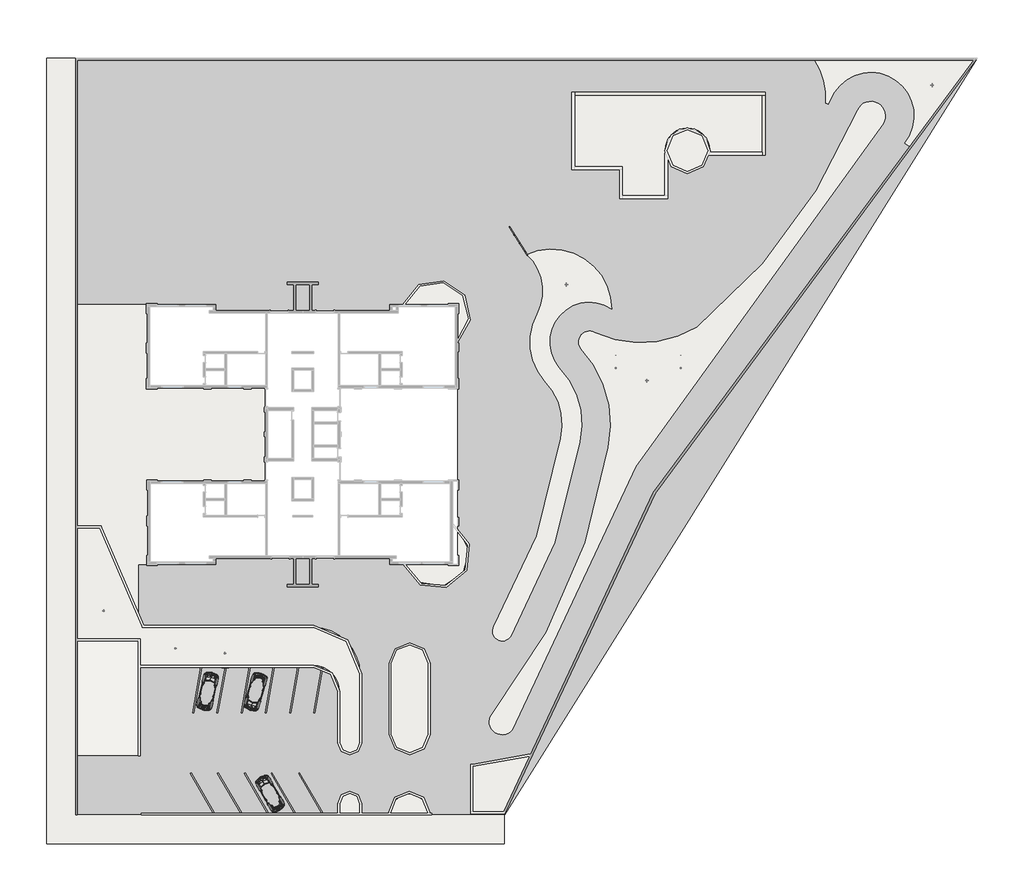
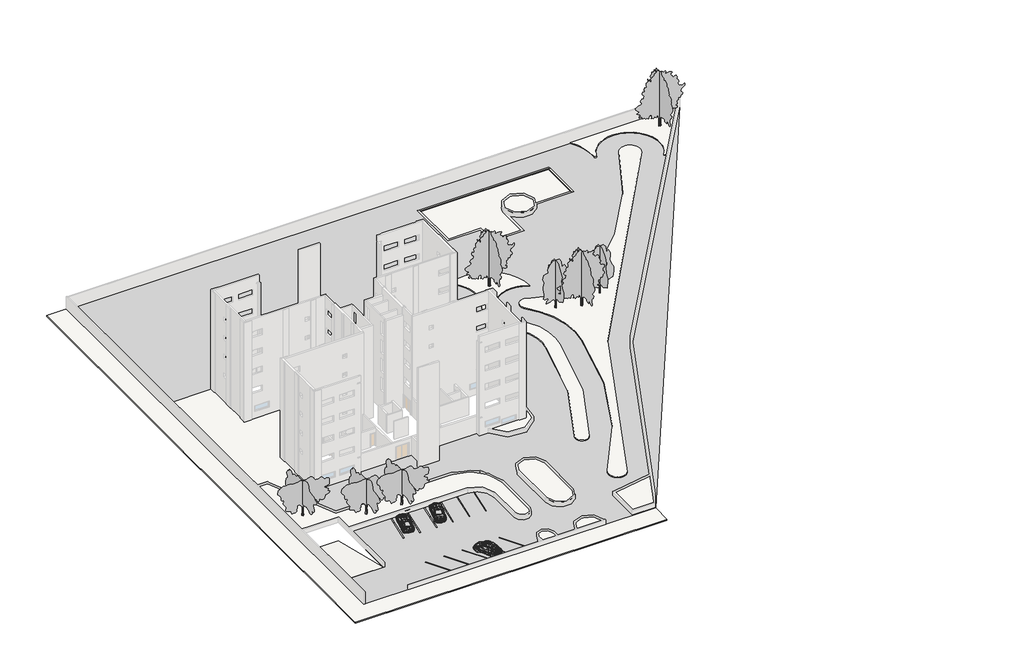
# One storey, part 6 of 6: 16 slabs, 15 proxies, 8 geographic elements, 2 walls, 1 railing.
"""IFC4 building model written with IfcOpenShell, lengths in millimetres."""

from ifc_helpers import new_model, si_unit, point, frame, frame_2d, origin, origin_with_axes, place, context, project, spatial, polyline, circle_curve, ellipse_curve, trimmed, segment, composite_curve, outline, extrude, faceted_brep, triangles, transform, mapped, element, save
from ifc_brep_helpers import plane_surface, revolved_surface, advanced_brep
from components import entourage_b6d71803, m_vaga_de_estacionamento_4800_x_2400_mm_60_degraus_5b8ad055, m_vaga_de_estacionamento_4800_x_2400_mm_80_degraus_9b4b83f7, geographic_element_40acba24, geographic_element_31fc5fb8, bordo_vermelho_9_metros_3358a221

model = new_model("IFC4")

# Units and contexts
model_context = context("Model", 3, world=origin())
ifc_project = project(units=[si_unit("LENGTHUNIT", "METRE", prefix="MILLI")], contexts=[model_context])

# Site, building, storey
site = spatial("IfcSite", under=ifc_project)
building = spatial("IfcBuilding", under=site)
storey = spatial("IfcBuildingStorey", under=building, Name="Térreo", Elevation=0.0)

# Proxies
placement = place(None, origin())
element("IfcBuildingElementProxy", 1, Name="Building Element Proxy", at=placement, inside=storey, context=model_context, shape_type="Tessellation", body=[
    triangles([(-24517.9150818, 39694.5445313, 0.0), (-24517.9150818, -38595.8743835, 0.0), (19838.1914246, -38570.873584, 0.0), (68737.7578125, 39694.5445313, 0.0), (26807.4171936, 36194.5465393, 0.0), (46807.4499023, 36194.5465393, 0.0), (46807.4499023, 29660.4128174, 0.0), (40792.2635742, 29660.4128174, 0.0), (40840.1443726, 30095.6443909, 0.0), (40796.226123, 30531.2945435, 0.0), (40662.4389404, 30948.2132813, 0.0), (40444.6615356, 31328.0714905, 0.0), (40152.4654175, 31654.1748413, 0.0), (39798.7009644, 31912.1846741, 0.0), (39398.9160645, 32090.7644714, 0.0), (38970.6817383, 32182.0588989, 0.0), (38532.8224182, 32182.0588989, 0.0), (38104.588092, 32090.7644714, 0.0), (37704.8008667, 31912.1846741, 0.0), (37351.0364136, 31654.1748413, 0.0), (37058.8426208, 31328.0714905, 0.0), (36841.0652161, 30948.2132813, 0.0), (36707.275708, 30531.2945435, 0.0), (36663.3574585, 30095.6443909, 0.0), (36711.2405823, 29660.4128174, 0.0), (36711.2405823, 25194.545874, 0.0), (31733.2653625, 25194.545874, 0.0), (31733.2653625, 28194.5464783, 0.0), (26807.4171936, 28194.5464783, 0.0), (-24317.9133362, -32494.7398132, 0.0), (-24317.9133362, 14233.6614258, 0.0), (-10026.2263824, 14233.6614258, 0.0), (-10026.2263824, 13603.6615082, 0.0), (7973.7731735, 13603.6615082, 0.0), (7973.7731735, 14233.6614258, 0.0), (9379.9286224, 14233.6614258, 0.0), (15013.773111, 14233.6614258, 0.0), (15013.773111, 10002.0453003, 0.0), (15013.773111, -12686.3384308, 0.0), (7973.7731735, -12686.3384308, 0.0), (7973.7731735, -12056.3385132, 0.0), (-10026.2263824, -12056.3385132, 0.0), (-10026.2263824, -12686.3384308, 0.0), (-17066.2269012, -12686.3384308, 0.0), (-18017.9141602, -12686.3384308, 0.0), (-18017.9141602, -32494.7398132, 0.0), (35406.1830322, -5314.8244263, 0.0)], [[2, 30, 31], [30, 2, 46], [46, 44, 45], [44, 46, 43], [2, 3, 46], [40, 3, 39], [40, 43, 46], [47, 38, 39], [42, 43, 41], [41, 43, 40], [40, 46, 3], [33, 34, 32], [32, 34, 35], [31, 32, 1], [31, 1, 2], [1, 32, 35], [1, 35, 5], [37, 38, 27], [36, 37, 29], [27, 29, 37], [28, 29, 27], [29, 5, 36], [27, 38, 47], [36, 5, 35], [1, 5, 4], [39, 3, 47], [26, 27, 47], [26, 47, 7], [24, 25, 23], [23, 25, 22], [26, 8, 25], [7, 8, 26], [14, 8, 9], [21, 25, 8], [10, 13, 9], [10, 11, 12], [25, 21, 22], [47, 4, 7], [19, 8, 18], [8, 19, 20], [8, 16, 17], [8, 17, 18], [21, 8, 20], [9, 13, 14], [14, 15, 8], [6, 4, 5], [7, 4, 6], [15, 16, 8], [12, 13, 10], [47, 3, 4]], closed=False),
])
entourage_shape = entourage_b6d71803(model_context)
element("IfcBuildingElementProxy", 2, Name="RPC Fusca : RPC Fusca", ObjectType="RPC Fusca : RPC Fusca", at=placement, inside=storey, context=model_context, shape_type="MappedRepresentation", body=[
    mapped(entourage_shape, transform((-11135.3987263, -27004.6754797, 0.0), x_axis=(0.9743700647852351, -0.22495105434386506, 0.0), y_axis=(0.22495105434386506, 0.9743700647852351, 0.0), z_axis=(0.0, 0.0, 1.0))),
])
element("IfcBuildingElementProxy", 3, Name="RPC Fusca : RPC Fusca", ObjectType="RPC Fusca : RPC Fusca", at=placement, inside=storey, context=model_context, shape_type="MappedRepresentation", body=[
    mapped(entourage_shape, transform((-5570.3362936, -24664.0640745, 0.0), x_axis=(-0.9612616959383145, 0.27563735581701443, 0.0), y_axis=(-0.27563735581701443, -0.9612616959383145, 0.0), z_axis=(0.0, 0.0, 1.0))),
])
element("IfcBuildingElementProxy", 4, Name="RPC Fusca : RPC Fusca", ObjectType="RPC Fusca : RPC Fusca", at=placement, inside=storey, context=model_context, shape_type="MappedRepresentation", body=[
    mapped(entourage_shape, transform((-3792.4903068, -37456.3218548, 0.0), x_axis=(0.8660254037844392, 0.4999999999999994, 0.0), y_axis=(-0.4999999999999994, 0.8660254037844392, 0.0), z_axis=(0.0, 0.0, 1.0))),
])
m_vaga_de_estacionamento_4800_x_2400_mm_60_degraus_shape = m_vaga_de_estacionamento_4800_x_2400_mm_60_degraus_5b8ad055(model_context)
element("IfcBuildingElementProxy", 5, Name="M_Vaga de estacionamento : 4800 x 2400 mm - 60 degraus", ObjectType="M_Vaga de estacionamento : 4800 x 2400 mm - 60 degraus", at=placement, inside=storey, context=model_context, shape_type="MappedRepresentation", body=[
    mapped(m_vaga_de_estacionamento_4800_x_2400_mm_60_degraus_shape, transform((982.0858738, -38395.8732274, 0.0), x_axis=(-1.0000000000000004, 0.0, 0.0), y_axis=(0.0, -1.0000000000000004, 0.0), z_axis=(0.0, 0.0, 1.0))),
])
element("IfcBuildingElementProxy", 6, Name="M_Vaga de estacionamento : 4800 x 2400 mm - 60 degraus", ObjectType="M_Vaga de estacionamento : 4800 x 2400 mm - 60 degraus", at=placement, inside=storey, context=model_context, shape_type="MappedRepresentation", body=[
    mapped(m_vaga_de_estacionamento_4800_x_2400_mm_60_degraus_shape, transform((-4629.7104353, -38395.8732274, 0.0), x_axis=(-1.0, 0.0, 0.0), y_axis=(0.0, -1.0, 0.0), z_axis=(0.0, 0.0, 1.0))),
])
element("IfcBuildingElementProxy", 7, Name="M_Vaga de estacionamento : 4800 x 2400 mm - 60 degraus", ObjectType="M_Vaga de estacionamento : 4800 x 2400 mm - 60 degraus", at=placement, inside=storey, context=model_context, shape_type="MappedRepresentation", body=[
    mapped(m_vaga_de_estacionamento_4800_x_2400_mm_60_degraus_shape, transform((-10217.9141262, -38395.8732274, 0.0), x_axis=(-1.0, 0.0, 0.0), y_axis=(0.0, -1.0, 0.0), z_axis=(0.0, 0.0, 1.0))),
])
element("IfcBuildingElementProxy", 8, Name="M_Vaga de estacionamento : 4800 x 2400 mm - 60 degraus", ObjectType="M_Vaga de estacionamento : 4800 x 2400 mm - 60 degraus", at=placement, inside=storey, context=model_context, shape_type="MappedRepresentation", body=[
    mapped(m_vaga_de_estacionamento_4800_x_2400_mm_60_degraus_shape, transform((-1858.7104353, -38395.8732274, 0.0), x_axis=(-1.0, 0.0, 0.0), y_axis=(0.0, -1.0, 0.0), z_axis=(0.0, 0.0, 1.0))),
])
element("IfcBuildingElementProxy", 9, Name="M_Vaga de estacionamento : 4800 x 2400 mm - 60 degraus", ObjectType="M_Vaga de estacionamento : 4800 x 2400 mm - 60 degraus", at=placement, inside=storey, context=model_context, shape_type="MappedRepresentation", body=[
    mapped(m_vaga_de_estacionamento_4800_x_2400_mm_60_degraus_shape, transform((-7400.7104353, -38395.8732274, 0.0), x_axis=(-1.0, 0.0, 0.0), y_axis=(0.0, -1.0, 0.0), z_axis=(0.0, 0.0, 1.0))),
])
m_vaga_de_estacionamento_4800_x_2400_mm_80_degraus_shape = m_vaga_de_estacionamento_4800_x_2400_mm_80_degraus_9b4b83f7(model_context)
element("IfcBuildingElementProxy", 10, Name="M_Vaga de estacionamento : 4800 x 2400 mm - 80 degraus", ObjectType="M_Vaga de estacionamento : 4800 x 2400 mm - 80 degraus", at=placement, inside=storey, context=model_context, shape_type="MappedRepresentation", body=[
    mapped(m_vaga_de_estacionamento_4800_x_2400_mm_80_degraus_shape, transform((-11499.5516131, -23306.6566108, 0.0), x_axis=(-1.0000000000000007, 0.0, 0.0), y_axis=(0.0, -1.0000000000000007, 0.0), z_axis=(0.0, 0.0, 1.0))),
])
element("IfcBuildingElementProxy", 11, Name="M_Vaga de estacionamento : 4800 x 2400 mm - 80 degraus", ObjectType="M_Vaga de estacionamento : 4800 x 2400 mm - 80 degraus", at=placement, inside=storey, context=model_context, shape_type="MappedRepresentation", body=[
    mapped(m_vaga_de_estacionamento_4800_x_2400_mm_80_degraus_shape, transform((-9010.9679413, -23306.6566108, 0.0), x_axis=(-1.0, 0.0, 0.0), y_axis=(0.0, -1.0, 0.0), z_axis=(0.0, 0.0, 1.0))),
])
element("IfcBuildingElementProxy", 12, Name="M_Vaga de estacionamento : 4800 x 2400 mm - 80 degraus", ObjectType="M_Vaga de estacionamento : 4800 x 2400 mm - 80 degraus", at=placement, inside=storey, context=model_context, shape_type="MappedRepresentation", body=[
    mapped(m_vaga_de_estacionamento_4800_x_2400_mm_80_degraus_shape, transform((-6502.3974192, -23306.6566108, 0.0), x_axis=(-1.0, 0.0, 0.0), y_axis=(0.0, -1.0, 0.0), z_axis=(0.0, 0.0, 1.0))),
])
element("IfcBuildingElementProxy", 13, Name="M_Vaga de estacionamento : 4800 x 2400 mm - 80 degraus", ObjectType="M_Vaga de estacionamento : 4800 x 2400 mm - 80 degraus", at=placement, inside=storey, context=model_context, shape_type="MappedRepresentation", body=[
    mapped(m_vaga_de_estacionamento_4800_x_2400_mm_80_degraus_shape, transform((-4005.6295436, -23306.6566108, 0.0), x_axis=(-1.0, 0.0, 0.0), y_axis=(0.0, -1.0, 0.0), z_axis=(0.0, 0.0, 1.0))),
])
element("IfcBuildingElementProxy", 14, Name="M_Vaga de estacionamento : 4800 x 2400 mm - 80 degraus", ObjectType="M_Vaga de estacionamento : 4800 x 2400 mm - 80 degraus", at=placement, inside=storey, context=model_context, shape_type="MappedRepresentation", body=[
    mapped(m_vaga_de_estacionamento_4800_x_2400_mm_80_degraus_shape, transform((-1508.861668, -23306.6566108, 0.0), x_axis=(-1.0, 0.0, 0.0), y_axis=(0.0, -1.0, 0.0), z_axis=(0.0, 0.0, 1.0))),
])
element("IfcBuildingElementProxy", 15, Name="M_Vaga de estacionamento : 4800 x 2400 mm - 80 degraus", ObjectType="M_Vaga de estacionamento : 4800 x 2400 mm - 80 degraus", at=placement, inside=storey, context=model_context, shape_type="MappedRepresentation", body=[
    mapped(m_vaga_de_estacionamento_4800_x_2400_mm_80_degraus_shape, transform((987.9062076, -23306.6566108, 0.0), x_axis=(-1.0, 0.0, 0.0), y_axis=(0.0, -1.0, 0.0), z_axis=(0.0, 0.0, 1.0))),
])

# Geographic elements
geographic_element_shape = geographic_element_40acba24(model_context)
element("IfcGeographicElement", 16, ObjectType="M_RPC Árvore - Caduca : Freixo vermelho - 7,6 metros", at=placement, inside=storey, context=model_context, shape_type="MappedRepresentation", body=[
    mapped(geographic_element_shape, transform((31333.539337, 7633.6614625, 150.0), x_axis=(1.0, 0.0, 0.0), y_axis=(0.0, 1.0, 0.0), z_axis=(0.0, 0.0, 1.0))),
])
element("IfcGeographicElement", 17, ObjectType="M_RPC Árvore - Caduca : Freixo vermelho - 7,6 metros", at=placement, inside=storey, context=model_context, shape_type="MappedRepresentation", body=[
    mapped(geographic_element_shape, transform((38040.7770278, 7633.6614625, 150.0), x_axis=(1.0, 0.0, 0.0), y_axis=(0.0, 1.0, 0.0), z_axis=(0.0, 0.0, 1.0))),
])
geographic_element_2_shape = geographic_element_31fc5fb8(model_context)
element("IfcGeographicElement", 18, ObjectType="M_RPC Árvore - Caduca : Macieira - 6,0 metros", at=placement, inside=storey, context=model_context, shape_type="MappedRepresentation", body=[
    mapped(geographic_element_2_shape, transform((-21617.9141262, -17481.3385375, 500.0), x_axis=(1.0, 0.0, 0.0), y_axis=(0.0, 1.0, 0.0), z_axis=(0.0, 0.0, 1.0))),
])
element("IfcGeographicElement", 19, ObjectType="M_RPC Árvore - Caduca : Macieira - 6,0 metros", at=placement, inside=storey, context=model_context, shape_type="MappedRepresentation", body=[
    mapped(geographic_element_2_shape, transform((-14191.2265742, -21375.5927534, 500.0), x_axis=(1.0, 0.0, 0.0), y_axis=(0.0, 1.0, 0.0), z_axis=(0.0, 0.0, 1.0))),
])
element("IfcGeographicElement", 20, ObjectType="M_RPC Árvore - Caduca : Macieira - 6,0 metros", at=placement, inside=storey, context=model_context, shape_type="MappedRepresentation", body=[
    mapped(geographic_element_2_shape, transform((-9076.2265742, -21875.5927534, 500.0), x_axis=(1.0, 0.0, 0.0), y_axis=(0.0, 1.0, 0.0), z_axis=(0.0, 0.0, 1.0))),
])
bordo_vermelho_9_metros_shape = bordo_vermelho_9_metros_3358a221(model_context)
element("IfcGeographicElement", 21, ObjectType="M_RPC Árvore - Caduca : Bordo vermelho - 9 metros", at=placement, inside=storey, context=model_context, shape_type="MappedRepresentation", body=[
    mapped(bordo_vermelho_9_metros_shape, transform((64040.7770278, 36894.5466212, 150.0), x_axis=(1.0, 0.0, 0.0), y_axis=(0.0, 1.0, 0.0), z_axis=(0.0, 0.0, 1.0))),
])
element("IfcGeographicElement", 22, ObjectType="M_RPC Árvore - Caduca : Bordo vermelho - 9 metros", at=placement, inside=storey, context=model_context, shape_type="MappedRepresentation", body=[
    mapped(bordo_vermelho_9_metros_shape, transform((34533.539337, 6333.6614625, 150.0), x_axis=(1.0, 0.0, 0.0), y_axis=(0.0, 1.0, 0.0), z_axis=(0.0, 0.0, 1.0))),
])
element("IfcGeographicElement", 23, ObjectType="M_RPC Árvore - Caduca : Bordo vermelho - 9 metros", at=placement, inside=storey, context=model_context, shape_type="MappedRepresentation", body=[
    mapped(bordo_vermelho_9_metros_shape, transform((26233.539337, 16278.6614625, 150.0), x_axis=(1.0, 0.0, 0.0), y_axis=(0.0, 1.0, 0.0), z_axis=(0.0, 0.0, 1.0))),
])

# Railing
element("IfcRailing", 24, ObjectType="900 mm Tubulação", at=placement, inside=storey, context=model_context, shape_type="SolidModel", body=[
    advanced_brep(
    [(22228.4636839, 19317.4463258, 880.0), (20356.4662354, 22262.0650202, 880.0), (20321.1795764, 22243.2275125, 880.0), (22196.4327243, 19293.4876608, 880.0)],
    [
        (0, 1, circle_curve(frame((40645.9733625, 33093.4601965, 880.0), z_axis=(0.0, 0.0, -1.0), x_axis=(-0.8821664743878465, -0.4709376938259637, 0.0)), 22999.6352346)),
        (1, 2, circle_curve(frame((20338.8229059, 22252.6462664, 880.0), z_axis=(0.47093769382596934, -0.8821664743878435, 0.0), x_axis=(0.8821664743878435, 0.47093769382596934, 0.0)), 20.0)),
        (2, 3, circle_curve(frame((40645.9733625, 33093.4601965, 880.0), z_axis=(0.0, 0.0, 1.0), x_axis=(-0.8821664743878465, -0.4709376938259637, 0.0)), 23039.6352346)),
        (3, 0, circle_curve(frame((22212.4482041, 19305.4669933, 880.0), z_axis=(-0.5989666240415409, 0.8007739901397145, 0.0), x_axis=(0.8007739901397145, 0.5989666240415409, 0.0)), 20.0)),
        (2, 1, circle_curve(frame((20338.8229059, 22252.6462664, 880.0), z_axis=(0.47093769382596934, -0.8821664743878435, 0.0), x_axis=(0.8821664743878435, 0.47093769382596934, 0.0)), 20.0)),
        (0, 3, circle_curve(frame((22212.4482041, 19305.4669933, 880.0), z_axis=(-0.598966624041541, 0.8007739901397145, 0.0), x_axis=(0.8007739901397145, 0.598966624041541, 0.0)), 20.0)),
    ],
    [
        revolved_surface(trimmed(ellipse_curve(frame((20338.8229059, 22252.6462664, 880.0), z_axis=(-0.4709376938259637, 0.8821664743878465, 0.0), x_axis=(0.8821664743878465, 0.4709376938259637, 0.0)), 20.0, 20.0), [point((20321.1795764, 22243.2275125, 880.0))], [point((20356.4662354, 22262.0650202, 880.0))], True, "CARTESIAN"), (40645.9733625, 33093.4601965, 900.0), (0.0, 0.0, 1.0)),
        revolved_surface(trimmed(ellipse_curve(frame((20338.8229059, 22252.6462664, 880.0), z_axis=(-0.4709376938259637, 0.8821664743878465, 0.0), x_axis=(0.8821664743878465, 0.4709376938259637, 0.0)), 20.0, 20.0), [point((20356.4662354, 22262.0650202, 880.0))], [point((20321.1795764, 22243.2275125, 880.0))], True, "CARTESIAN"), (40645.9733625, 33093.4601965, 900.0), (0.0, 0.0, 1.0)),
        plane_surface(frame((20338.8229059, 22252.6462664, 900.0), z_axis=(-0.4709376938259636, 0.8821664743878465, 0.0), x_axis=(0.8821664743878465, 0.4709376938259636, 0.0))),
        plane_surface(frame((22212.4482041, 19305.4669933, 900.0), z_axis=(0.5989666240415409, -0.8007739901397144, 0.0), x_axis=(0.8007739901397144, 0.5989666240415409, 0.0))),
    ],
    [
        (0, [[1, 2, 3, 4]]),
        (1, [[-3, 5, -1, 6]]),
        (2, [[-2, -5]]),
        (3, [[-6, -4]]),
    ],
),
    advanced_brep(
    [(22200.4365943, 19296.482494, 685.0), (20325.5904088, 22245.582201, 685.0), (20352.055403, 22259.7103318, 685.0), (22224.459814, 19314.4514927, 685.0)],
    [
        (0, 1, circle_curve(frame((40645.9733625, 33093.4601965, 685.0), z_axis=(0.0, 0.0, -1.0), x_axis=(-0.8821664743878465, -0.4709376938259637, 0.0)), 23034.6352346)),
        (1, 2, circle_curve(frame((20338.8229059, 22252.6462664, 685.0), z_axis=(0.4709376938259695, -0.8821664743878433, 0.0), x_axis=(0.8821664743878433, 0.4709376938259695, 0.0)), 15.0)),
        (2, 3, circle_curve(frame((40645.9733625, 33093.4601965, 685.0), z_axis=(0.0, 0.0, 1.0), x_axis=(-0.8821664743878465, -0.4709376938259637, 0.0)), 23004.6352346)),
        (3, 0, circle_curve(frame((22212.4482041, 19305.4669933, 685.0), z_axis=(-0.5989666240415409, 0.8007739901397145, 0.0), x_axis=(0.8007739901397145, 0.5989666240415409, 0.0)), 15.0)),
        (2, 1, circle_curve(frame((20338.8229059, 22252.6462664, 685.0), z_axis=(0.4709376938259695, -0.8821664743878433, 0.0), x_axis=(0.8821664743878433, 0.4709376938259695, 0.0)), 15.0)),
        (0, 3, circle_curve(frame((22212.4482041, 19305.4669933, 685.0), z_axis=(-0.5989666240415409, 0.8007739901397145, 0.0), x_axis=(0.8007739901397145, 0.5989666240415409, 0.0)), 15.0)),
    ],
    [
        revolved_surface(trimmed(ellipse_curve(frame((20338.8229059, 22252.6462664, 685.0), z_axis=(-0.4709376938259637, 0.8821664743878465, 0.0), x_axis=(0.8821664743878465, 0.4709376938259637, 0.0)), 15.0, 15.0), [point((20352.055403, 22259.7103318, 685.0))], [point((20325.5904088, 22245.582201, 685.0))], True, "CARTESIAN"), (40645.9733625, 33093.4601965, 700.0), (0.0, 0.0, 1.0)),
        revolved_surface(trimmed(ellipse_curve(frame((20338.8229059, 22252.6462664, 685.0), z_axis=(-0.4709376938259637, 0.8821664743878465, 0.0), x_axis=(0.8821664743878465, 0.4709376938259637, 0.0)), 15.0, 15.0), [point((20325.5904088, 22245.582201, 685.0))], [point((20352.055403, 22259.7103318, 685.0))], True, "CARTESIAN"), (40645.9733625, 33093.4601965, 700.0), (0.0, 0.0, 1.0)),
        plane_surface(frame((20338.8229059, 22252.6462664, 700.0), z_axis=(-0.4709376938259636, 0.8821664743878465, 0.0), x_axis=(0.8821664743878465, 0.4709376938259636, 0.0))),
        plane_surface(frame((22212.4482041, 19305.4669933, 700.0), z_axis=(0.5989666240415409, -0.8007739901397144, 0.0), x_axis=(0.8007739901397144, 0.5989666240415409, 0.0))),
    ],
    [
        (0, [[1, 2, 3, 4]]),
        (1, [[-3, 5, -1, 6]]),
        (2, [[-5, -2]]),
        (3, [[-4, -6]]),
    ],
),
    advanced_brep(
    [(22200.4365943, 19296.482494, 485.0), (20325.5904088, 22245.582201, 485.0), (20352.055403, 22259.7103318, 485.0), (22224.459814, 19314.4514927, 485.0)],
    [
        (0, 1, circle_curve(frame((40645.9733625, 33093.4601965, 485.0), z_axis=(0.0, 0.0, -1.0), x_axis=(-0.8821664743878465, -0.4709376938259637, 0.0)), 23034.6352346)),
        (1, 2, circle_curve(frame((20338.8229059, 22252.6462664, 485.0), z_axis=(0.4709376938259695, -0.8821664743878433, 0.0), x_axis=(0.8821664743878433, 0.4709376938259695, 0.0)), 15.0)),
        (2, 3, circle_curve(frame((40645.9733625, 33093.4601965, 485.0), z_axis=(0.0, 0.0, 1.0), x_axis=(-0.8821664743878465, -0.4709376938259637, 0.0)), 23004.6352346)),
        (3, 0, circle_curve(frame((22212.4482041, 19305.4669933, 485.0), z_axis=(-0.5989666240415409, 0.8007739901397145, 0.0), x_axis=(0.8007739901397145, 0.5989666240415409, 0.0)), 15.0)),
        (2, 1, circle_curve(frame((20338.8229059, 22252.6462664, 485.0), z_axis=(0.4709376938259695, -0.8821664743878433, 0.0), x_axis=(0.8821664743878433, 0.4709376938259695, 0.0)), 15.0)),
        (0, 3, circle_curve(frame((22212.4482041, 19305.4669933, 485.0), z_axis=(-0.5989666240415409, 0.8007739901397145, 0.0), x_axis=(0.8007739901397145, 0.5989666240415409, 0.0)), 15.0)),
    ],
    [
        revolved_surface(trimmed(ellipse_curve(frame((20338.8229059, 22252.6462664, 485.0), z_axis=(-0.4709376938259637, 0.8821664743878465, 0.0), x_axis=(0.8821664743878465, 0.4709376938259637, 0.0)), 15.0, 15.0), [point((20352.055403, 22259.7103318, 485.0))], [point((20325.5904088, 22245.582201, 485.0))], True, "CARTESIAN"), (40645.9733625, 33093.4601965, 500.0), (0.0, 0.0, 1.0)),
        revolved_surface(trimmed(ellipse_curve(frame((20338.8229059, 22252.6462664, 485.0), z_axis=(-0.4709376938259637, 0.8821664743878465, 0.0), x_axis=(0.8821664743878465, 0.4709376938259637, 0.0)), 15.0, 15.0), [point((20325.5904088, 22245.582201, 485.0))], [point((20352.055403, 22259.7103318, 485.0))], True, "CARTESIAN"), (40645.9733625, 33093.4601965, 500.0), (0.0, 0.0, 1.0)),
        plane_surface(frame((20338.8229059, 22252.6462664, 500.0), z_axis=(-0.4709376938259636, 0.8821664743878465, 0.0), x_axis=(0.8821664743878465, 0.4709376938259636, 0.0))),
        plane_surface(frame((22212.4482041, 19305.4669933, 500.0), z_axis=(0.5989666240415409, -0.8007739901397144, 0.0), x_axis=(0.8007739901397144, 0.5989666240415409, 0.0))),
    ],
    [
        (0, [[1, 2, 3, 4]]),
        (1, [[-3, 5, -1, 6]]),
        (2, [[-5, -2]]),
        (3, [[-4, -6]]),
    ],
),
    advanced_brep(
    [(22200.4365943, 19296.482494, 285.0), (20325.5904088, 22245.582201, 285.0), (20352.055403, 22259.7103318, 285.0), (22224.459814, 19314.4514927, 285.0)],
    [
        (0, 1, circle_curve(frame((40645.9733625, 33093.4601965, 285.0), z_axis=(0.0, 0.0, -1.0), x_axis=(-0.8821664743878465, -0.4709376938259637, 0.0)), 23034.6352346)),
        (1, 2, circle_curve(frame((20338.8229059, 22252.6462664, 285.0), z_axis=(0.4709376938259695, -0.8821664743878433, 0.0), x_axis=(0.8821664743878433, 0.4709376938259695, 0.0)), 15.0)),
        (2, 3, circle_curve(frame((40645.9733625, 33093.4601965, 285.0), z_axis=(0.0, 0.0, 1.0), x_axis=(-0.8821664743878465, -0.4709376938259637, 0.0)), 23004.6352346)),
        (3, 0, circle_curve(frame((22212.4482041, 19305.4669933, 285.0), z_axis=(-0.5989666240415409, 0.8007739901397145, 0.0), x_axis=(0.8007739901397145, 0.5989666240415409, 0.0)), 15.0)),
        (2, 1, circle_curve(frame((20338.8229059, 22252.6462664, 285.0), z_axis=(0.4709376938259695, -0.8821664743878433, 0.0), x_axis=(0.8821664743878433, 0.4709376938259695, 0.0)), 15.0)),
        (0, 3, circle_curve(frame((22212.4482041, 19305.4669933, 285.0), z_axis=(-0.5989666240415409, 0.8007739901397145, 0.0), x_axis=(0.8007739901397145, 0.5989666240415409, 0.0)), 15.0)),
    ],
    [
        revolved_surface(trimmed(ellipse_curve(frame((20338.8229059, 22252.6462664, 285.0), z_axis=(-0.4709376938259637, 0.8821664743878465, 0.0), x_axis=(0.8821664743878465, 0.4709376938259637, 0.0)), 15.0, 15.0), [point((20352.055403, 22259.7103318, 285.0))], [point((20325.5904088, 22245.582201, 285.0))], True, "CARTESIAN"), (40645.9733625, 33093.4601965, 300.0), (0.0, 0.0, 1.0)),
        revolved_surface(trimmed(ellipse_curve(frame((20338.8229059, 22252.6462664, 285.0), z_axis=(-0.4709376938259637, 0.8821664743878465, 0.0), x_axis=(0.8821664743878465, 0.4709376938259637, 0.0)), 15.0, 15.0), [point((20325.5904088, 22245.582201, 285.0))], [point((20352.055403, 22259.7103318, 285.0))], True, "CARTESIAN"), (40645.9733625, 33093.4601965, 300.0), (0.0, 0.0, 1.0)),
        plane_surface(frame((20338.8229059, 22252.6462664, 300.0), z_axis=(-0.4709376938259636, 0.8821664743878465, 0.0), x_axis=(0.8821664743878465, 0.4709376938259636, 0.0))),
        plane_surface(frame((22212.4482041, 19305.4669933, 300.0), z_axis=(0.5989666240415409, -0.8007739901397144, 0.0), x_axis=(0.8007739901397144, 0.5989666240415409, 0.0))),
    ],
    [
        (0, [[1, 2, 3, 4]]),
        (1, [[-3, 5, -1, 6]]),
        (2, [[-5, -2]]),
        (3, [[-4, -6]]),
    ],
),
    advanced_brep(
    [(22200.4365943, 19296.482494, 85.0), (20325.5904088, 22245.582201, 85.0), (20352.055403, 22259.7103318, 85.0), (22224.459814, 19314.4514927, 85.0)],
    [
        (0, 1, circle_curve(frame((40645.9733625, 33093.4601965, 85.0), z_axis=(0.0, 0.0, -1.0), x_axis=(-0.8821664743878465, -0.4709376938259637, 0.0)), 23034.6352346)),
        (1, 2, circle_curve(frame((20338.8229059, 22252.6462664, 85.0), z_axis=(0.4709376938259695, -0.8821664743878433, 0.0), x_axis=(0.8821664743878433, 0.4709376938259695, 0.0)), 15.0)),
        (2, 3, circle_curve(frame((40645.9733625, 33093.4601965, 85.0), z_axis=(0.0, 0.0, 1.0), x_axis=(-0.8821664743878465, -0.4709376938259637, 0.0)), 23004.6352346)),
        (3, 0, circle_curve(frame((22212.4482041, 19305.4669933, 85.0), z_axis=(-0.5989666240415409, 0.8007739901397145, 0.0), x_axis=(0.8007739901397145, 0.5989666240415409, 0.0)), 15.0)),
        (2, 1, circle_curve(frame((20338.8229059, 22252.6462664, 85.0), z_axis=(0.4709376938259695, -0.8821664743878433, 0.0), x_axis=(0.8821664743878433, 0.4709376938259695, 0.0)), 15.0)),
        (0, 3, circle_curve(frame((22212.4482041, 19305.4669933, 85.0), z_axis=(-0.5989666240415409, 0.8007739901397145, 0.0), x_axis=(0.8007739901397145, 0.5989666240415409, 0.0)), 15.0)),
    ],
    [
        revolved_surface(trimmed(ellipse_curve(frame((20338.8229059, 22252.6462664, 85.0), z_axis=(-0.4709376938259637, 0.8821664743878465, 0.0), x_axis=(0.8821664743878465, 0.4709376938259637, 0.0)), 15.0, 15.0), [point((20352.055403, 22259.7103318, 85.0))], [point((20325.5904088, 22245.582201, 85.0))], True, "CARTESIAN"), (40645.9733625, 33093.4601965, 100.0), (0.0, 0.0, 1.0)),
        revolved_surface(trimmed(ellipse_curve(frame((20338.8229059, 22252.6462664, 85.0), z_axis=(-0.4709376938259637, 0.8821664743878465, 0.0), x_axis=(0.8821664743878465, 0.4709376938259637, 0.0)), 15.0, 15.0), [point((20325.5904088, 22245.582201, 85.0))], [point((20352.055403, 22259.7103318, 85.0))], True, "CARTESIAN"), (40645.9733625, 33093.4601965, 100.0), (0.0, 0.0, 1.0)),
        plane_surface(frame((20338.8229059, 22252.6462664, 100.0), z_axis=(-0.4709376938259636, 0.8821664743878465, 0.0), x_axis=(0.8821664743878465, 0.4709376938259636, 0.0))),
        plane_surface(frame((22212.4482041, 19305.4669933, 100.0), z_axis=(0.5989666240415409, -0.8007739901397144, 0.0), x_axis=(0.8007739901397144, 0.5989666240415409, 0.0))),
    ],
    [
        (0, [[1, 2, 3, 4]]),
        (1, [[-3, 5, -1, 6]]),
        (2, [[-5, -2]]),
        (3, [[-4, -6]]),
    ],
),
    extrude(outline(composite_curve([segment(trimmed(circle_curve(frame_2d((21919.8467536, 19705.5631039)), 12.5), [point((21909.6781918, 19698.2932792))], [point((21930.0153153, 19712.8329286))], False, "CARTESIAN"), True, "CONTINUOUS"), segment(trimmed(circle_curve(frame_2d((21919.8467536, 19705.5631039)), 12.5), [point((21930.0153153, 19712.8329286))], [point((21909.6781918, 19698.2932792))], False, "CARTESIAN"), True, "CONTINUOUS")], self_intersect=False)), origin_with_axes(), (0.0, 0.0, 1.0), 900.0),
    extrude(outline(composite_curve([segment(trimmed(circle_curve(frame_2d((21356.1102716, 20531.4226122)), 12.5), [point((21345.6355926, 20524.6012413))], [point((21366.5849505, 20538.2439831))], False, "CARTESIAN"), True, "CONTINUOUS"), segment(trimmed(circle_curve(frame_2d((21356.1102716, 20531.4226122)), 12.5), [point((21366.5849505, 20538.2439831))], [point((21345.6355926, 20524.6012413))], False, "CARTESIAN"), True, "CONTINUOUS")], self_intersect=False)), origin_with_axes(), (0.0, 0.0, 1.0), 900.0),
    extrude(outline(composite_curve([segment(trimmed(circle_curve(frame_2d((20828.770654, 21380.9846619)), 12.5), [point((20818.0096219, 21374.6246157))], [point((20839.5316862, 21387.3447082))], False, "CARTESIAN"), True, "CONTINUOUS"), segment(trimmed(circle_curve(frame_2d((20828.770654, 21380.9846619)), 12.5), [point((20839.5316862, 21387.3447082))], [point((20818.0096219, 21374.6246157))], False, "CARTESIAN"), True, "CONTINUOUS")], self_intersect=False)), origin_with_axes(), (0.0, 0.0, 1.0), 900.0),
    extrude(outline(composite_curve([segment(trimmed(circle_curve(frame_2d((22204.9638394, 19315.4787005)), 12.5), [point((22194.9501004, 19307.9970542))], [point((22214.9775784, 19322.9603468))], False, "CARTESIAN"), True, "CONTINUOUS"), segment(trimmed(circle_curve(frame_2d((22204.9638394, 19315.4787005)), 12.5), [point((22214.9775784, 19322.9603468))], [point((22194.9501004, 19307.9970542))], False, "CARTESIAN"), True, "CONTINUOUS")], self_intersect=False)), origin_with_axes(), (0.0, 0.0, 1.0), 900.0),
    extrude(outline(composite_curve([segment(trimmed(circle_curve(frame_2d((20344.7126207, 22241.6207843)), 12.5), [point((20333.688738, 22235.7280761))], [point((20355.7365034, 22247.5134924))], False, "CARTESIAN"), True, "CONTINUOUS"), segment(trimmed(circle_curve(frame_2d((20344.7126207, 22241.6207843)), 12.5), [point((20355.7365034, 22247.5134924))], [point((20333.688738, 22235.7280761))], False, "CARTESIAN"), True, "CONTINUOUS")], self_intersect=False)), origin_with_axes(), (0.0, 0.0, 1.0), 900.0),
])

# Slabs
element("IfcSlab", 25, ObjectType="chao", at=placement, inside=storey, context=model_context, shape_type="SweptSolid", body=[
    extrude(outline(polyline([(-17116.2265742, 14233.6614625), (-17116.2265742, 5583.6614625), (-4926.2265742, 5583.6614625), (-4926.2265742, -4036.3385375), (-17066.2265742, -4036.3385375), (-17066.2265742, -12686.3385375), (-18026.2265742, -12686.3385375), (-18026.2265742, -17786.3385375), (-21910.8166391, -8680.2987821), (-24317.9141262, -8680.2987821), (-24317.9141262, 14233.6614625), (-17116.2265742, 14233.6614625)])), frame((0.0, 0.0, -150.0), z_axis=(0.0, 0.0, 1.0), x_axis=(1.0, 0.0, 0.0)), (0.0, 0.0, 1.0), 150.0),
])
element("IfcSlab", 26, ObjectType="Genérico 150 mm", at=placement, inside=storey, context=model_context, shape_type="SweptSolid", body=[
    extrude(outline(polyline([(-20575.5927534, -3154.6783537), (-32494.7400989, -154.6783537), (-32494.7400989, 0.0), (-20575.5927534, -3000.0), (-20575.5927534, -3154.6783537)])), frame((-24317.9141262, 0.0, 0.0), z_axis=(1.0, 0.0, 0.0), x_axis=(0.0, 1.0, 0.0)), (0.0, 0.0, 1.0), 6300.0),
])
element("IfcSlab", 27, ObjectType="Genérico 150 mm", at=placement, inside=storey, context=model_context, shape_type="SweptSolid", body=[
    extrude(outline(polyline([(-24517.9141262, -38595.8732274), (19826.4884846, -38595.8732274), (19826.4884846, -41595.8732274), (-27517.9141262, -41595.8732274), (-27517.9141262, 39694.5466212), (-24517.9141262, 39694.5466212), (-24517.9141262, -38595.8732274)])), frame((0.0, 0.0, -150.0), z_axis=(0.0, 0.0, 1.0), x_axis=(1.0, 0.0, 0.0)), (0.0, 0.0, 1.0), 150.0),
])
element("IfcSlab", 28, ObjectType="Pad 1", at=placement, inside=storey, context=model_context, shape_type="SweptSolid", body=[
    extrude(outline(composite_curve([segment(polyline([(26807.4178737, 36194.5466212), (46807.4513898, 36194.5466212), (46807.4513898, 29660.413094), (40792.2628524, 29660.413094)]), True, "CONTINUOUS"), segment(trimmed(circle_curve(frame_2d((38751.7515487, 30105.1512773)), 2088.4152921), [point((40792.2628524, 29660.413094))], [point((36711.240245, 29660.413094))], True, "CARTESIAN"), True, "CONTINUOUS"), segment(polyline([(36711.240245, 29660.413094), (36711.240245, 25194.5466212), (31733.2652295, 25194.5466212), (31733.2652295, 28194.5466212), (26807.4178737, 28194.5466212), (26807.4178737, 36194.5466212)]), True, "CONTINUOUS")], self_intersect=False)), frame((0.0, 0.0, -1504.8), z_axis=(0.0, 0.0, 1.0), x_axis=(1.0, 0.0, 0.0)), (0.0, 0.0, 1.0), 304.8),
])
element("IfcSlab", 29, ObjectType="agua", at=placement, inside=storey, context=model_context, shape_type="SweptSolid", body=[
    extrude(outline(composite_curve([segment(polyline([(46507.4513898, 35894.5466212), (46507.4513898, 29960.413094), (41093.2245807, 29960.413094)]), True, "CONTINUOUS"), segment(trimmed(circle_curve(frame_2d((38742.5293591, 30136.3195215)), 2357.2677183), [point((41093.2245807, 29960.413094))], [point((41099.7970775, 30136.3195215))], True, "CARTESIAN"), True, "CONTINUOUS"), segment(trimmed(circle_curve(frame_2d((38742.5293591, 30136.3195215)), 2357.2677183), [point((41099.7970775, 30136.3195215))], [point((36385.2616408, 30136.3195215))], True, "CARTESIAN"), True, "CONTINUOUS"), segment(trimmed(circle_curve(frame_2d((38742.5293591, 30136.3195215)), 2357.2677183), [point((36385.2616408, 30136.3195215))], [point((36411.240245, 29787.3178567))], True, "CARTESIAN"), True, "CONTINUOUS"), segment(polyline([(36411.240245, 29787.3178567), (36411.240245, 25494.5466212), (32033.2652295, 25494.5466212), (32033.2652295, 28494.5466212), (27107.4178737, 28494.5466212), (27107.4178737, 35894.5466212), (46507.4513898, 35894.5466212)]), True, "CONTINUOUS")], self_intersect=False)), frame((0.0, 0.0, -150.0), z_axis=(0.0, 0.0, 1.0), x_axis=(1.0, 0.0, 0.0)), (0.0, 0.0, 1.0), 50.0),
])
element("IfcSlab", 30, ObjectType="grama", at=placement, inside=storey, context=model_context, shape_type="SweptSolid", body=[
    extrude(outline(composite_curve([segment(trimmed(circle_curve(frame_2d((57722.1369731, 33732.608471)), 1499.3616855), [point((56347.9908021, 34332.4482536))], [point((58979.1924152, 32915.3587665))], False, "CARTESIAN"), True, "CONTINUOUS"), segment(polyline([(58979.1924152, 32915.3587665), (33402.5773318, -2518.915571), (20638.8331863, -29784.5829299)]), True, "CONTINUOUS"), segment(trimmed(circle_curve(frame_2d((19592.5181151, -28946.9702659)), 1340.2873584), [point((20638.8331863, -29784.5829299))], [point((18546.2030439, -28109.3576019))], False, "CARTESIAN"), True, "CONTINUOUS"), segment(trimmed(circle_curve(frame_2d((-26443.5713707, 7906.5670808)), 57630.0844406), [point((18546.2030439, -28109.3576019))], [point((30560.3685046, -565.5915175))], True, "CARTESIAN"), True, "CONTINUOUS"), segment(trimmed(circle_curve(frame_2d((19435.7670637, 1853.3098458)), 11384.5439533), [point((30560.3685046, -565.5915175))], [point((27703.9352287, 9679.2434144))], True, "CARTESIAN"), True, "CONTINUOUS"), segment(trimmed(circle_curve(frame_2d((28601.9786324, 10341.2787461)), 1115.6938359), [point((27703.9352287, 9679.2434144))], [point((29170.4416565, 11301.2904782))], False, "CARTESIAN"), True, "CONTINUOUS"), segment(trimmed(circle_curve(frame_2d((33918.1844399, 21648.5983159)), 11384.5439533), [point((29170.4416565, 11301.2904782))], [point((39789.4605135, 11894.8319514))], True, "CARTESIAN"), True, "CONTINUOUS"), segment(trimmed(circle_curve(frame_2d((3559.7519662, 55960.4086301)), 57047.0580263), [point((39789.4605135, 11894.8319514))], [point((56347.9908021, 34332.4482536))], True, "CARTESIAN"), True, "CONTINUOUS")], self_intersect=False)), origin_with_axes(), (0.0, 0.0, 1.0), 150.0),
])
element("IfcSlab", 31, ObjectType="grama", at=placement, inside=storey, context=model_context, shape_type="SweptSolid", body=[
    extrude(outline(composite_curve([segment(polyline([(22436.7787869, -32548.0890887), (19752.8557151, -38281.4344816), (16568.5988374, -38281.4344816), (16568.5988374, -33543.0270687)]), True, "CONTINUOUS"), segment(trimmed(circle_curve(frame_2d((16954.7200078, -18017.5465347)), 15530.2812392), [point((16568.5988374, -33543.0270687))], [point((22436.7787869, -32548.0890887))], True, "CARTESIAN"), True, "CONTINUOUS")], self_intersect=False)), frame((0.0, 0.0, 350.0), z_axis=(0.0, 0.0, 1.0), x_axis=(1.0, 0.0, 0.0)), (0.0, 0.0, 1.0), 150.0),
])
element("IfcSlab", 32, ObjectType="grama", at=placement, inside=storey, context=model_context, shape_type="SweptSolid", body=[
    extrude(outline(composite_curve([segment(polyline([(11960.22669, -22906.6566108), (11960.22669, -30232.738286)]), True, "CONTINUOUS"), segment(trimmed(circle_curve(frame_2d((10028.5015499, -30232.738286)), 1931.7251401), [point((11960.22669, -30232.738286))], [point((8096.7764098, -30232.738286))], False, "CARTESIAN"), True, "CONTINUOUS"), segment(polyline([(8096.7764098, -30232.738286), (8096.7764098, -22906.6566108)]), True, "CONTINUOUS"), segment(trimmed(circle_curve(frame_2d((10028.5015499, -22906.6566108)), 1931.7251401), [point((8096.7764098, -22906.6566108))], [point((11960.22669, -22906.6566108))], False, "CARTESIAN"), True, "CONTINUOUS")], self_intersect=False)), frame((0.0, 0.0, 350.0), z_axis=(0.0, 0.0, 1.0), x_axis=(1.0, 0.0, 0.0)), (0.0, 0.0, 1.0), 150.0),
])
element("IfcSlab", 33, ObjectType="grama", at=placement, inside=storey, context=model_context, shape_type="SweptSolid", body=[
    extrude(outline(composite_curve([segment(polyline([(-24317.9141262, -8892.5709243), (-22007.8057625, -8892.5709243), (-17607.8694716, -19206.6566108), (91.9307061, -19206.6566108)]), True, "CONTINUOUS"), segment(trimmed(circle_curve(frame_2d((91.9307061, -24006.6566108)), 4800.0), [point((91.9307061, -19206.6566108))], [point((4891.9307061, -24006.6566108))], False, "CARTESIAN"), True, "CONTINUOUS"), segment(polyline([(4891.9307061, -24006.6566108), (4891.9307061, -31114.4634261)]), True, "CONTINUOUS"), segment(trimmed(circle_curve(frame_2d((3841.9307061, -31114.4634261)), 1050.0), [point((4891.9307061, -31114.4634261))], [point((2791.9307061, -31114.4634261))], False, "CARTESIAN"), True, "CONTINUOUS"), segment(polyline([(2791.9307061, -31114.4634261), (2791.9307061, -25806.6566108)]), True, "CONTINUOUS"), segment(trimmed(circle_curve(frame_2d((91.9307061, -25806.6566108)), 2700.0), [point((2791.9307061, -25806.6566108))], [point((91.9307061, -23106.6566108))], True, "CARTESIAN"), True, "CONTINUOUS"), segment(polyline([(91.9307061, -23106.6566108), (-17817.9141262, -23106.6566108), (-17817.9141262, -20375.5927534), (-24317.9141262, -20375.5927534), (-24317.9141262, -8892.5709243)]), True, "CONTINUOUS")], self_intersect=False)), frame((0.0, 0.0, 350.0), z_axis=(0.0, 0.0, 1.0), x_axis=(1.0, 0.0, 0.0)), (0.0, 0.0, 1.0), 150.0),
])
element("IfcSlab", 34, ObjectType="grama", at=placement, inside=storey, context=model_context, shape_type="SweptSolid", body=[
    extrude(outline(composite_curve([segment(polyline([(4891.9307061, -37414.1480873), (4891.9307061, -38395.8732274), (2791.9307061, -38395.8732274), (2791.9307061, -37414.1480873)]), True, "CONTINUOUS"), segment(trimmed(circle_curve(frame_2d((3841.9307061, -37414.1480873)), 1050.0), [point((2791.9307061, -37414.1480873))], [point((4891.9307061, -37414.1480873))], False, "CARTESIAN"), True, "CONTINUOUS")], self_intersect=False)), frame((0.0, 0.0, 350.0), z_axis=(0.0, 0.0, 1.0), x_axis=(1.0, 0.0, 0.0)), (0.0, 0.0, 1.0), 150.0),
])
element("IfcSlab", 35, ObjectType="grama", at=placement, inside=storey, context=model_context, shape_type="SweptSolid", body=[
    extrude(outline(composite_curve([segment(polyline([(11910.1750248, -38395.8732274), (8051.9049374, -38395.8732274)]), True, "CONTINUOUS"), segment(trimmed(circle_curve(frame_2d((9981.0399811, -38295.8732274)), 1931.7251401), [point((8051.9049374, -38395.8732274))], [point((11910.1750248, -38395.8732274))], False, "CARTESIAN"), True, "CONTINUOUS")], self_intersect=False)), frame((0.0, 0.0, 350.0), z_axis=(0.0, 0.0, 1.0), x_axis=(1.0, 0.0, 0.0)), (0.0, 0.0, 1.0), 150.0),
])
element("IfcSlab", 36, ObjectType="grama", at=placement, inside=storey, context=model_context, shape_type="SweptSolid", body=[
    extrude(outline(composite_curve([segment(polyline([(51921.3834784, 39494.5466212), (68340.7770278, 39494.5466212), (61726.3888666, 30562.7914011), (61237.7588554, 30924.6450884)]), True, "CONTINUOUS"), segment(trimmed(circle_curve(frame_2d((57722.1369731, 33732.608471)), 4499.3616855), [point((61237.7588554, 30924.6450884))], [point((53522.8477082, 35348.2276238))], True, "CARTESIAN"), True, "CONTINUOUS"), segment(polyline([(53522.8477082, 35348.2276238), (53327.4582718, 34929.2136252), (53054.6691097, 35056.4173005)]), True, "CONTINUOUS"), segment(trimmed(circle_curve(frame_2d((46151.3433529, 35657.3966802)), 6929.4359597), [point((53054.6691097, 35056.4173005))], [point((51921.3834784, 39494.5466212))], True, "CARTESIAN"), True, "CONTINUOUS")], self_intersect=False)), origin_with_axes(), (0.0, 0.0, 1.0), 150.0),
])
element("IfcSlab", 37, ObjectType="grama", at=placement, inside=storey, context=model_context, shape_type="SweptSolid", body=[
    extrude(outline(composite_curve([segment(trimmed(circle_curve(frame_2d((19600.5439009, -19591.1674796)), 1000.0), [point((20459.0940179, -20103.8971321))], [point((18741.9937839, -19078.437827))], False, "CARTESIAN"), True, "CONTINUOUS"), segment(trimmed(circle_curve(frame_2d((-26443.5713707, 7906.5670808)), 52630.0844406), [point((18741.9937839, -19078.437827))], [point((25641.811732, 354.1730718))], True, "CARTESIAN"), True, "CONTINUOUS"), segment(trimmed(circle_curve(frame_2d((19435.7670637, 1853.3098458)), 6384.5439533), [point((25641.811732, 354.1730718))], [point((23969.1708887, 6348.9356366))], True, "CARTESIAN"), True, "CONTINUOUS"), segment(trimmed(circle_curve(frame_2d((28601.9786324, 10341.2787462)), 6115.6938359), [point((23969.1708887, 6348.9356366))], [point((23222.4138455, 13250.2293812))], False, "CARTESIAN"), True, "CONTINUOUS"), segment(trimmed(circle_curve(frame_2d((18824.249932, 15628.4964374)), 5000.0), [point((23222.4138455, 13250.2293812))], [point((22124.5084398, 19384.5973122))], True, "CARTESIAN"), True, "CONTINUOUS"), segment(trimmed(circle_curve(frame_2d((24697.7698246, 13736.8103654)), 6206.3815183), [point((22124.5084398, 19384.5973122))], [point((30904.1305356, 13752.8813557))], False, "CARTESIAN"), True, "CONTINUOUS"), segment(trimmed(circle_curve(frame_2d((28601.9786324, 10341.2787461)), 4115.6938359), [point((30904.1305356, 13752.8813557))], [point((25446.4309305, 7699.0345388))], True, "CARTESIAN"), True, "CONTINUOUS"), segment(trimmed(circle_curve(frame_2d((19435.7670637, 1853.3098458)), 8384.5439533), [point((25446.4309305, 7699.0345388))], [point((27608.4710481, -19.518734))], False, "CARTESIAN"), True, "CONTINUOUS"), segment(trimmed(circle_curve(frame_2d((-26443.5713707, 7906.5670808)), 54630.0844406), [point((27608.4710481, -19.518734))], [point((20459.0940179, -20103.8971321))], False, "CARTESIAN"), True, "CONTINUOUS")], self_intersect=False)), origin_with_axes(), (0.0, 0.0, 1.0), 150.0),
])
element("IfcSlab", 38, ObjectType="grama", at=placement, inside=storey, context=model_context, shape_type="SweptSolid", body=[
    extrude(outline(composite_curve([segment(trimmed(circle_curve(frame_2d((38742.5293591, 30136.3195215)), 2157.2677183), [point((40899.7970775, 30136.3195215))], [point((36585.2616408, 30136.3195215))], False, "CARTESIAN"), True, "CONTINUOUS"), segment(trimmed(circle_curve(frame_2d((38742.5293591, 30136.3195215)), 2157.2677183), [point((36585.2616408, 30136.3195215))], [point((40899.7970775, 30136.3195215))], False, "CARTESIAN"), True, "CONTINUOUS")], self_intersect=False)), frame((0.0, 0.0, 350.0), z_axis=(0.0, 0.0, 1.0), x_axis=(1.0, 0.0, 0.0)), (0.0, 0.0, 1.0), 150.0),
])
element("IfcSlab", 39, ObjectType="grama", at=placement, inside=storey, context=model_context, shape_type="SweptSolid", body=[
    extrude(outline(composite_curve([segment(polyline([(9553.3881794, -12686.3385375), (15013.7734258, -12686.3385375), (15013.7734258, -9047.0022365)]), True, "CONTINUOUS"), segment(trimmed(circle_curve(frame_2d((12768.6644727, -11594.4799369)), 3395.6084647), [point((15013.7734258, -9047.0022365))], [point((9553.3881794, -12686.3385375))], False, "CARTESIAN"), True, "CONTINUOUS")], self_intersect=False)), frame((0.0, 0.0, 350.0), z_axis=(0.0, 0.0, 1.0), x_axis=(1.0, 0.0, 0.0)), (0.0, 0.0, 1.0), 150.0),
])
element("IfcSlab", 40, ObjectType="grama", at=placement, inside=storey, context=model_context, shape_type="SweptSolid", body=[
    extrude(outline(composite_curve([segment(polyline([(15013.7734258, 14233.6614625), (9512.5678464, 14233.6614625)]), True, "CONTINUOUS"), segment(trimmed(circle_curve(frame_2d((12741.4420778, 13140.9435619)), 3408.7624165), [point((9512.5678464, 14233.6614625))], [point((15013.7734258, 10600.0438281))], False, "CARTESIAN"), True, "CONTINUOUS"), segment(polyline([(15013.7734258, 10600.0438281), (15013.7734258, 14233.6614625)]), True, "CONTINUOUS")], self_intersect=False)), frame((0.0, 0.0, 350.0), z_axis=(0.0, 0.0, 1.0), x_axis=(1.0, 0.0, 0.0)), (0.0, 0.0, 1.0), 150.0),
])

# Walls
element("IfcWall", 41, ObjectType="Fundação - 300 mm Concreto", at=placement, inside=storey, context=model_context, shape_type="Brep", body=[
    faceted_brep([(46807.4513898, 36194.5466212, -4000.0), (27107.4178737, 36194.5466212, -4000.0), (27107.4178737, 36194.5466212, 0.0), (46807.4513898, 36194.5466212, 0.0), (46807.4513898, 35894.5466212, -4000.0), (46807.4513898, 35894.5466212, 0.0), (46507.4513898, 35894.5466212, 0.0), (27107.4178737, 35894.5466212, 0.0), (27107.4178737, 35894.5466212, -4000.0), (46507.4513898, 35894.5466212, -4000.0)], [[[0, 1, 2, 3]], [[4, 5, 6, 7, 8, 9]], [[1, 0, 4, 9, 8]], [[3, 2, 7, 6, 5]], [[2, 1, 8, 7]], [[0, 3, 5, 4]]]),
])
element("IfcWall", 42, ObjectType="Fundação - 300 mm Concreto", at=placement, inside=storey, context=model_context, shape_type="Brep", body=[
    faceted_brep([(46807.4513898, 29660.413094, -4000.0), (46807.4513898, 35894.5466212, -4000.0), (46807.4513898, 35894.5466212, 0.0), (46807.4513898, 29660.413094, 0.0), (46507.4513898, 29660.413094, -4000.0), (46507.4513898, 29660.413094, 0.0), (46507.4513898, 29960.413094, 0.0), (46507.4513898, 35894.5466212, 0.0), (46507.4513898, 35894.5466212, -4000.0), (46507.4513898, 29960.413094, -4000.0)], [[[0, 1, 2, 3]], [[4, 5, 6, 7, 8, 9]], [[1, 0, 4, 9, 8]], [[3, 2, 7, 6, 5]], [[2, 1, 8, 7]], [[0, 3, 5, 4]]]),
])

save(model, "model.ifc")
